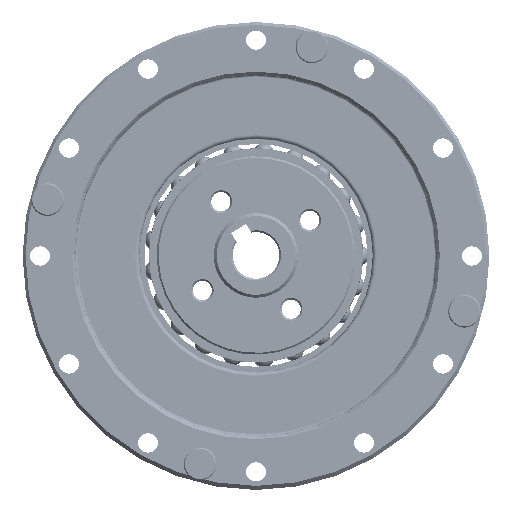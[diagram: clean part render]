
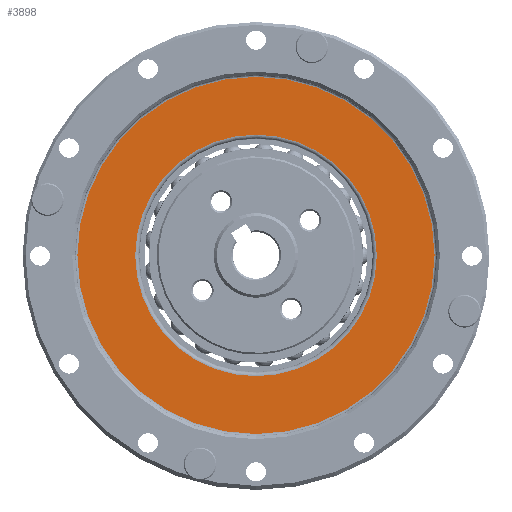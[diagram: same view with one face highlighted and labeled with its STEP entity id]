
A CAD part, front view. The second image highlights one B-rep face of the part: STEP entity #3898.
In plain terms, the highlighted planar face has unit normal (0, -1, 0).
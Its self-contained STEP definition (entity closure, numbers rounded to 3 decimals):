
#3643=PLANE('',#11971);
#3898=ADVANCED_FACE('',(#4730,#4731),#3643,.T.);
#4730=FACE_BOUND('',#5321,.T.);
#4731=FACE_BOUND('',#5322,.T.);
#5321=EDGE_LOOP('',(#6299));
#5322=EDGE_LOOP('',(#6300));
#6299=ORIENTED_EDGE('',*,*,#10152,.T.);
#6300=ORIENTED_EDGE('',*,*,#10151,.F.);
#9107=VERTEX_POINT('',#15333);
#9108=VERTEX_POINT('',#15336);
#10151=EDGE_CURVE('',#9107,#9107,#11556,.T.);
#10152=EDGE_CURVE('',#9108,#9108,#11557,.T.);
#11556=CIRCLE('',#11968,20.7);
#11557=CIRCLE('',#11970,30.605);
#11968=AXIS2_PLACEMENT_3D('',#15332,#12929,#12930);
#11970=AXIS2_PLACEMENT_3D('',#15335,#12933,#12934);
#11971=AXIS2_PLACEMENT_3D('',#15337,#12935,#12936);
#12929=DIRECTION('',(0.,-1.,0.));
#12930=DIRECTION('',(0.,0.,-1.));
#12933=DIRECTION('',(0.,-1.,0.));
#12934=DIRECTION('',(0.,0.,-1.));
#12935=DIRECTION('',(0.,-1.,0.));
#12936=DIRECTION('',(0.,0.,-1.));
#15332=CARTESIAN_POINT('',(0.,2.7,0.));
#15333=CARTESIAN_POINT('',(0.,2.7,-20.7));
#15335=CARTESIAN_POINT('',(0.,2.7,0.));
#15336=CARTESIAN_POINT('',(0.,2.7,-30.605));
#15337=CARTESIAN_POINT('',(20.7,2.7,0.));
